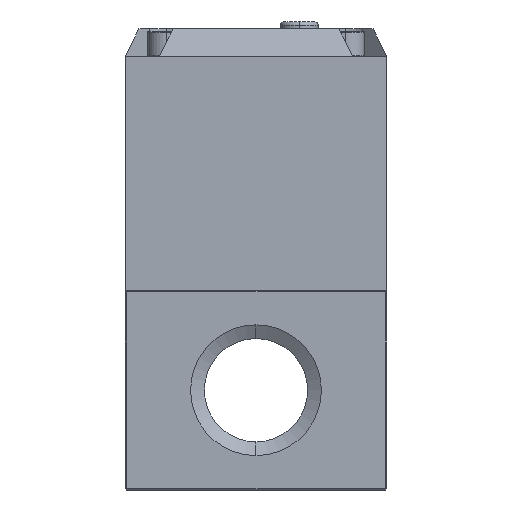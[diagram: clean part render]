
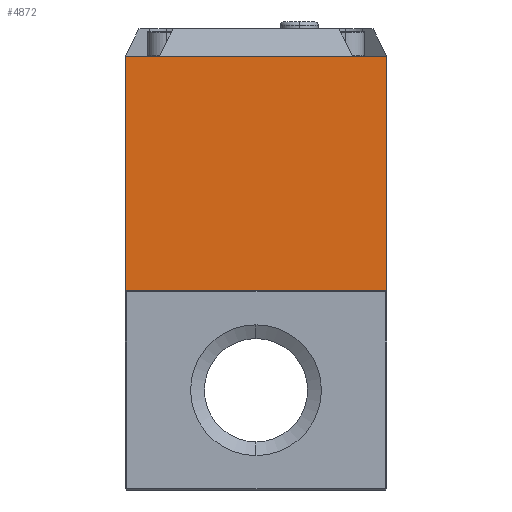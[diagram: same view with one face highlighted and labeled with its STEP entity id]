
A CAD part, left-side view. The second image highlights one B-rep face of the part: STEP entity #4872.
In plain terms, the highlighted planar face has unit normal (-1, 0, 0) as drawn and (1, 0, 0) by its records, which use the part's own axes.
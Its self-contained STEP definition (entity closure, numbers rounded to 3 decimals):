
#9 = CARTESIAN_POINT ( 'NONE',  ( 44., 33.05, -15. ) ) ;
#189 = LINE ( 'NONE', #19393, #17356 ) ;
#407 = EDGE_CURVE ( 'NONE', #5282, #2347, #189, .T. ) ;
#471 = PLANE ( 'NONE',  #6744 ) ;
#1104 = EDGE_CURVE ( 'NONE', #20690, #19191, #9117, .T. ) ;
#1932 = DIRECTION ( 'NONE',  ( 0., 0., -1. ) ) ;
#2232 = DIRECTION ( 'NONE',  ( 0., 0., 1. ) ) ;
#2347 = VERTEX_POINT ( 'NONE', #15271 ) ;
#2732 = LINE ( 'NONE', #10227, #10620 ) ;
#2953 = ORIENTED_EDGE ( 'NONE', *, *, #16465, .F. ) ;
#3911 = LINE ( 'NONE', #9595, #20506 ) ;
#4778 = LINE ( 'NONE', #10928, #18505 ) ;
#4872 = ADVANCED_FACE ( 'NONE', ( #16337 ), #471, .F. ) ;
#5145 = VECTOR ( 'NONE', #11590, 1000. ) ;
#5282 = VERTEX_POINT ( 'NONE', #7116 ) ;
#5350 = ORIENTED_EDGE ( 'NONE', *, *, #8150, .T. ) ;
#5466 = CARTESIAN_POINT ( 'NONE',  ( 44., 0., 19. ) ) ;
#6126 = CARTESIAN_POINT ( 'NONE',  ( 44., 0., -19. ) ) ;
#6377 = CARTESIAN_POINT ( 'NONE',  ( 44., 4.95, -15. ) ) ;
#6744 = AXIS2_PLACEMENT_3D ( 'NONE', #10586, #12232, #2232 ) ;
#6992 = DIRECTION ( 'NONE',  ( 0., -1., 0. ) ) ;
#7116 = CARTESIAN_POINT ( 'NONE',  ( 44., 38., 19. ) ) ;
#7889 = VECTOR ( 'NONE', #17679, 1000. ) ;
#7921 = ORIENTED_EDGE ( 'NONE', *, *, #9968, .T. ) ;
#8150 = EDGE_CURVE ( 'NONE', #5282, #8193, #2732, .T. ) ;
#8193 = VERTEX_POINT ( 'NONE', #5466 ) ;
#8570 = ORIENTED_EDGE ( 'NONE', *, *, #1104, .T. ) ;
#9117 = LINE ( 'NONE', #12276, #5145 ) ;
#9595 = CARTESIAN_POINT ( 'NONE',  ( 44., 33.05, -15. ) ) ;
#9658 = DIRECTION ( 'NONE',  ( 0., -1., 0. ) ) ;
#9968 = EDGE_CURVE ( 'NONE', #19191, #12258, #4778, .T. ) ;
#10227 = CARTESIAN_POINT ( 'NONE',  ( 44., 38., 19. ) ) ;
#10586 = CARTESIAN_POINT ( 'NONE',  ( 44., 38., -19. ) ) ;
#10620 = VECTOR ( 'NONE', #6992, 1000. ) ;
#10928 = CARTESIAN_POINT ( 'NONE',  ( 44., -2., -15. ) ) ;
#11116 = EDGE_LOOP ( 'NONE', ( #19114, #8570, #7921, #2953, #18742, #5350 ) ) ;
#11590 = DIRECTION ( 'NONE',  ( 0., 1., 0. ) ) ;
#12232 = DIRECTION ( 'NONE',  ( -1., 0., 0. ) ) ;
#12258 = VERTEX_POINT ( 'NONE', #9 ) ;
#12276 = CARTESIAN_POINT ( 'NONE',  ( 44., -2., -15. ) ) ;
#12987 = CARTESIAN_POINT ( 'NONE',  ( 44., 0., -15. ) ) ;
#15048 = EDGE_CURVE ( 'NONE', #8193, #20690, #16664, .T. ) ;
#15271 = CARTESIAN_POINT ( 'NONE',  ( 44., 38., -15. ) ) ;
#15675 = DIRECTION ( 'NONE',  ( 0., 1., 0. ) ) ;
#16337 = FACE_OUTER_BOUND ( 'NONE', #11116, .T. ) ;
#16465 = EDGE_CURVE ( 'NONE', #2347, #12258, #3911, .T. ) ;
#16664 = LINE ( 'NONE', #6126, #7889 ) ;
#17356 = VECTOR ( 'NONE', #1932, 1000. ) ;
#17679 = DIRECTION ( 'NONE',  ( 0., 0., -1. ) ) ;
#18505 = VECTOR ( 'NONE', #15675, 1000. ) ;
#18742 = ORIENTED_EDGE ( 'NONE', *, *, #407, .F. ) ;
#19114 = ORIENTED_EDGE ( 'NONE', *, *, #15048, .T. ) ;
#19191 = VERTEX_POINT ( 'NONE', #6377 ) ;
#19393 = CARTESIAN_POINT ( 'NONE',  ( 44., 38., -19. ) ) ;
#20506 = VECTOR ( 'NONE', #9658, 1000. ) ;
#20690 = VERTEX_POINT ( 'NONE', #12987 ) ;
